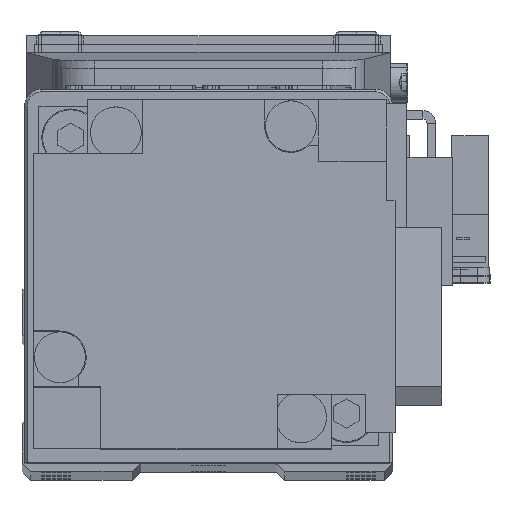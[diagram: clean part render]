
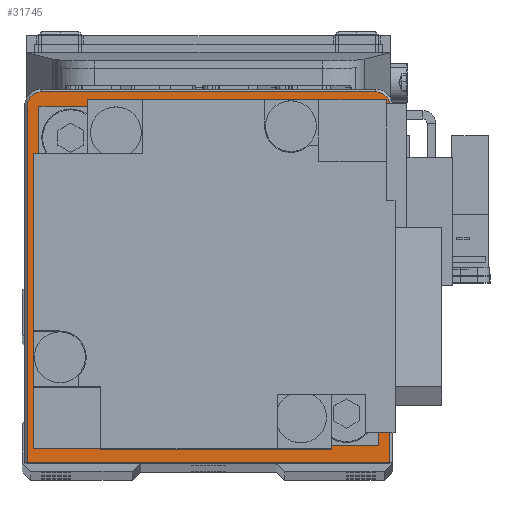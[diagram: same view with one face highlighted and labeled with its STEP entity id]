
A CAD part, top view. The second image highlights one B-rep face of the part: STEP entity #31745.
In plain terms, the highlighted planar face has unit normal (0, 0, 1).
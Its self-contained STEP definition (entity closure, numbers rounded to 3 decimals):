
#494 = PLANE ( 'NONE',  #15664 ) ;
#2073 = LINE ( 'NONE', #13754, #28356 ) ;
#2313 = CARTESIAN_POINT ( 'NONE',  ( -21.4, 20., 26.5 ) ) ;
#3273 = CARTESIAN_POINT ( 'NONE',  ( 19.7, 20., 26.5 ) ) ;
#3337 = CIRCLE ( 'NONE', #24756, 10. ) ;
#3589 = CARTESIAN_POINT ( 'NONE',  ( 19.7, 21.7, 26.5 ) ) ;
#4270 = CARTESIAN_POINT ( 'NONE',  ( -10., 0., 26.5 ) ) ;
#4639 = VECTOR ( 'NONE', #7496, 1000. ) ;
#5329 = DIRECTION ( 'NONE',  ( 1., 0., 0. ) ) ;
#5526 = VERTEX_POINT ( 'NONE', #4270 ) ;
#6057 = DIRECTION ( 'NONE',  ( 1., 0., 0. ) ) ;
#6166 = DIRECTION ( 'NONE',  ( 0., 0., 1. ) ) ;
#6191 = EDGE_LOOP ( 'NONE', ( #6481, #19355 ) ) ;
#6481 = ORIENTED_EDGE ( 'NONE', *, *, #8125, .F. ) ;
#7343 = ORIENTED_EDGE ( 'NONE', *, *, #16993, .T. ) ;
#7496 = DIRECTION ( 'NONE',  ( -1., 0., 0. ) ) ;
#8125 = EDGE_CURVE ( 'NONE', #5526, #20120, #33556, .T. ) ;
#8893 = ORIENTED_EDGE ( 'NONE', *, *, #27156, .T. ) ;
#9243 = CIRCLE ( 'NONE', #30686, 1.7 ) ;
#9735 = VERTEX_POINT ( 'NONE', #22420 ) ;
#10929 = DIRECTION ( 'NONE',  ( 0., 1., 0. ) ) ;
#11098 = VERTEX_POINT ( 'NONE', #2313 ) ;
#11402 = LINE ( 'NONE', #23098, #28316 ) ;
#12157 = CARTESIAN_POINT ( 'NONE',  ( 0., 0., 26.5 ) ) ;
#12378 = CARTESIAN_POINT ( 'NONE',  ( 21.4, 20., 26.5 ) ) ;
#13023 = EDGE_CURVE ( 'NONE', #20120, #5526, #3337, .T. ) ;
#13044 = VERTEX_POINT ( 'NONE', #3589 ) ;
#13754 = CARTESIAN_POINT ( 'NONE',  ( -21.7, -22., 26.5 ) ) ;
#14822 = VECTOR ( 'NONE', #10929, 1000. ) ;
#14828 = ORIENTED_EDGE ( 'NONE', *, *, #34145, .T. ) ;
#14949 = DIRECTION ( 'NONE',  ( 0., 0., 1. ) ) ;
#15013 = FACE_OUTER_BOUND ( 'NONE', #21780, .T. ) ;
#15358 = EDGE_CURVE ( 'NONE', #31387, #11098, #9243, .T. ) ;
#15664 = AXIS2_PLACEMENT_3D ( 'NONE', #12157, #23839, #35585 ) ;
#16773 = CARTESIAN_POINT ( 'NONE',  ( 10., 0., 26.5 ) ) ;
#16977 = AXIS2_PLACEMENT_3D ( 'NONE', #19909, #31624, #5329 ) ;
#16993 = EDGE_CURVE ( 'NONE', #11098, #9735, #11402, .T. ) ;
#17117 = AXIS2_PLACEMENT_3D ( 'NONE', #3273, #14949, #26668 ) ;
#17871 = DIRECTION ( 'NONE',  ( 1., 0., 0. ) ) ;
#18949 = ORIENTED_EDGE ( 'NONE', *, *, #15358, .T. ) ;
#19355 = ORIENTED_EDGE ( 'NONE', *, *, #13023, .F. ) ;
#19718 = ORIENTED_EDGE ( 'NONE', *, *, #36495, .T. ) ;
#19909 = CARTESIAN_POINT ( 'NONE',  ( 0., 0., 26.5 ) ) ;
#20120 = VERTEX_POINT ( 'NONE', #16773 ) ;
#20656 = CARTESIAN_POINT ( 'NONE',  ( 0., 0., 26.5 ) ) ;
#21780 = EDGE_LOOP ( 'NONE', ( #8893, #19718, #14828, #32769, #18949, #7343 ) ) ;
#22084 = LINE ( 'NONE', #33810, #4639 ) ;
#22420 = CARTESIAN_POINT ( 'NONE',  ( -21.4, -22., 26.5 ) ) ;
#23098 = CARTESIAN_POINT ( 'NONE',  ( -21.4, -22., 26.5 ) ) ;
#23656 = VERTEX_POINT ( 'NONE', #12378 ) ;
#23839 = DIRECTION ( 'NONE',  ( 0., 0., 1. ) ) ;
#24756 = AXIS2_PLACEMENT_3D ( 'NONE', #20656, #32372, #6057 ) ;
#24954 = CARTESIAN_POINT ( 'NONE',  ( 21.4, -22., 26.5 ) ) ;
#25441 = DIRECTION ( 'NONE',  ( 1., 0., 0. ) ) ;
#25502 = LINE ( 'NONE', #37249, #14822 ) ;
#26668 = DIRECTION ( 'NONE',  ( 1., 0., 0. ) ) ;
#26732 = FACE_BOUND ( 'NONE', #6191, .T. ) ;
#27156 = EDGE_CURVE ( 'NONE', #9735, #32818, #2073, .T. ) ;
#28316 = VECTOR ( 'NONE', #34833, 1000. ) ;
#28356 = VECTOR ( 'NONE', #25441, 1000. ) ;
#30146 = EDGE_CURVE ( 'NONE', #13044, #31387, #22084, .T. ) ;
#30686 = AXIS2_PLACEMENT_3D ( 'NONE', #32481, #6166, #17871 ) ;
#31387 = VERTEX_POINT ( 'NONE', #36381 ) ;
#31624 = DIRECTION ( 'NONE',  ( 0., 0., 1. ) ) ;
#31745 = ADVANCED_FACE ( 'NONE', ( #15013, #26732 ), #494, .T. ) ;
#32372 = DIRECTION ( 'NONE',  ( 0., 0., 1. ) ) ;
#32481 = CARTESIAN_POINT ( 'NONE',  ( -19.7, 20., 26.5 ) ) ;
#32769 = ORIENTED_EDGE ( 'NONE', *, *, #30146, .T. ) ;
#32818 = VERTEX_POINT ( 'NONE', #24954 ) ;
#33556 = CIRCLE ( 'NONE', #16977, 10. ) ;
#33694 = CIRCLE ( 'NONE', #17117, 1.7 ) ;
#33810 = CARTESIAN_POINT ( 'NONE',  ( -19.7, 21.7, 26.5 ) ) ;
#34145 = EDGE_CURVE ( 'NONE', #23656, #13044, #33694, .T. ) ;
#34833 = DIRECTION ( 'NONE',  ( 0., -1., 0. ) ) ;
#35585 = DIRECTION ( 'NONE',  ( 1., 0., 0. ) ) ;
#36381 = CARTESIAN_POINT ( 'NONE',  ( -19.7, 21.7, 26.5 ) ) ;
#36495 = EDGE_CURVE ( 'NONE', #32818, #23656, #25502, .T. ) ;
#37249 = CARTESIAN_POINT ( 'NONE',  ( 21.4, 20., 26.5 ) ) ;
